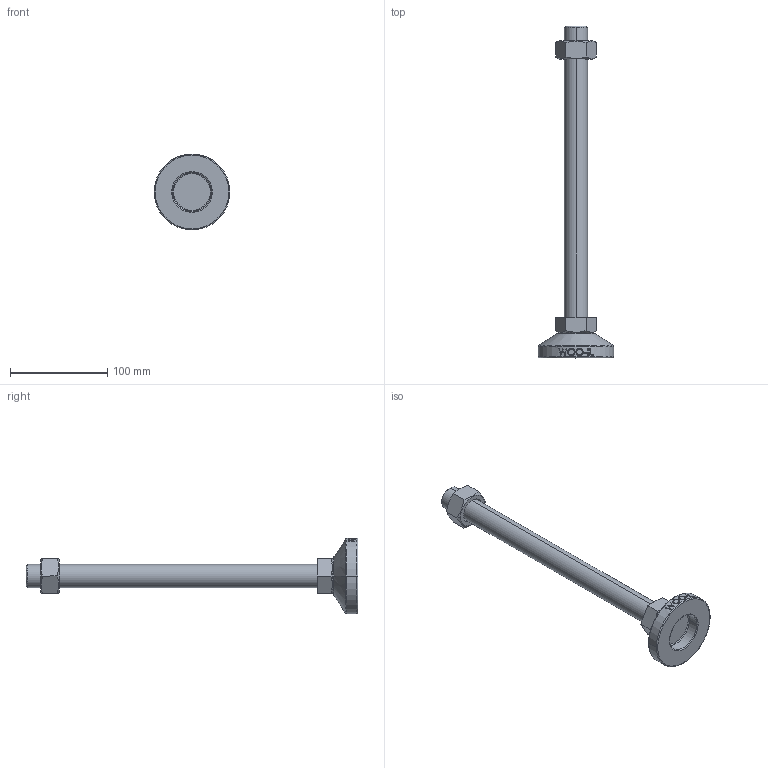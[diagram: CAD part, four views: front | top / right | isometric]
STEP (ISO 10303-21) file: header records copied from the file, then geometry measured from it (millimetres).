
FILE_DESCRIPTION (( 'STEP AP214' ), '1' );
FILE_NAME ('MF78-M24-300.step', '2021-02-03T08:22:41', ( '' ), ( '' ), 'SwSTEP 2.0', 'SolidWorks 2019', '' );
FILE_SCHEMA (( 'AUTOMOTIVE_DESIGN' ));
Length unit declared in the file: millimetre
Products named in the file (2): MF78-M24-300
Bounding box: 78 x 342 x 78 mm (x, y, z)
Volume: 245820.7 mm3; surface area: 46334.2 mm2
Topology: 3 solids, 3 shells, 106 faces, 243 edges, 154 vertices
Faces by surface type: plane 48, cylinder 18, bspline 16, cone 14, torus 10
Entity records: 4556 total; most frequent: CARTESIAN_POINT 2213, ORIENTED_EDGE 486, DIRECTION 439, EDGE_CURVE 243, AXIS2_PLACEMENT_3D 170, VERTEX_POINT 154, EDGE_LOOP 119, ADVANCED_FACE 106
